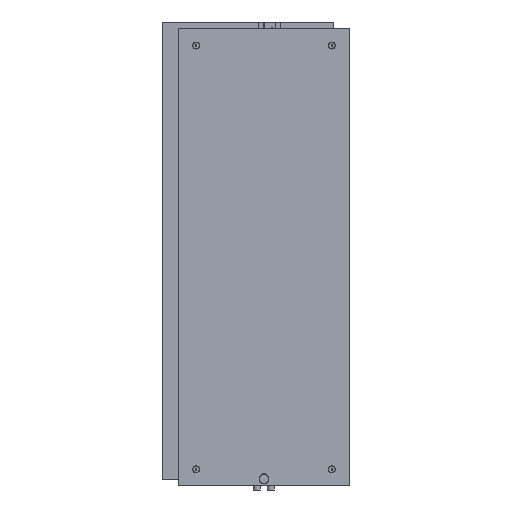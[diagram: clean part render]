
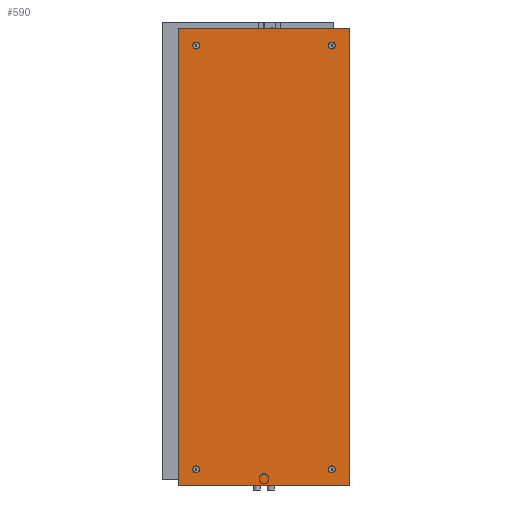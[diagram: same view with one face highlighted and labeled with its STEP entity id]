
A CAD part, front view. The second image highlights one B-rep face of the part: STEP entity #590.
In plain terms, the highlighted planar face has unit normal (0, -1, 0).
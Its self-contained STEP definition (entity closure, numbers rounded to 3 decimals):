
#590 = ADVANCED_FACE( '', ( #1381, #1382, #1383, #1384, #1385 ), #1386, .T. );
#1381 = FACE_BOUND( '', #2927, .T. );
#1382 = FACE_BOUND( '', #2928, .T. );
#1383 = FACE_OUTER_BOUND( '', #2929, .T. );
#1384 = FACE_BOUND( '', #2930, .T. );
#1385 = FACE_BOUND( '', #2931, .T. );
#1386 = PLANE( '', #2932 );
#2927 = EDGE_LOOP( '', ( #4956 ) );
#2928 = EDGE_LOOP( '', ( #4957 ) );
#2929 = EDGE_LOOP( '', ( #4958, #4959, #4960, #4961 ) );
#2930 = EDGE_LOOP( '', ( #4962 ) );
#2931 = EDGE_LOOP( '', ( #4963 ) );
#2932 = AXIS2_PLACEMENT_3D( '', #4964, #4965, #4966 );
#4956 = ORIENTED_EDGE( '', *, *, #6990, .T. );
#4957 = ORIENTED_EDGE( '', *, *, #6991, .T. );
#4958 = ORIENTED_EDGE( '', *, *, #6736, .T. );
#4959 = ORIENTED_EDGE( '', *, *, #6992, .T. );
#4960 = ORIENTED_EDGE( '', *, *, #6987, .T. );
#4961 = ORIENTED_EDGE( '', *, *, #6676, .T. );
#4962 = ORIENTED_EDGE( '', *, *, #6993, .T. );
#4963 = ORIENTED_EDGE( '', *, *, #6585, .T. );
#4964 = CARTESIAN_POINT( '', ( -367.18, 0., 0. ) );
#4965 = DIRECTION( '', ( 0., -1., 0. ) );
#4966 = DIRECTION( '', ( 0., 0., -1. ) );
#6585 = EDGE_CURVE( '', #7284, #7284, #7285, .T. );
#6676 = EDGE_CURVE( '', #7447, #7448, #7449, .T. );
#6736 = EDGE_CURVE( '', #7448, #7553, #7554, .T. );
#6987 = EDGE_CURVE( '', #7954, #7447, #7955, .T. );
#6990 = EDGE_CURVE( '', #7958, #7958, #7959, .T. );
#6991 = EDGE_CURVE( '', #7960, #7960, #7961, .T. );
#6992 = EDGE_CURVE( '', #7553, #7954, #7962, .T. );
#6993 = EDGE_CURVE( '', #7963, #7963, #7964, .T. );
#7284 = VERTEX_POINT( '', #8358 );
#7285 = CIRCLE( '', #8359, 5. );
#7447 = VERTEX_POINT( '', #9504 );
#7448 = VERTEX_POINT( '', #9505 );
#7449 = LINE( '', #9506, #9507 );
#7553 = VERTEX_POINT( '', #11176 );
#7554 = LINE( '', #11177, #11178 );
#7954 = VERTEX_POINT( '', #14553 );
#7955 = LINE( '', #14554, #14555 );
#7958 = VERTEX_POINT( '', #14559 );
#7959 = CIRCLE( '', #14560, 5. );
#7960 = VERTEX_POINT( '', #14561 );
#7961 = CIRCLE( '', #14562, 5. );
#7962 = LINE( '', #14563, #14564 );
#7963 = VERTEX_POINT( '', #14565 );
#7964 = CIRCLE( '', #14566, 5. );
#8358 = CARTESIAN_POINT( '', ( -302.18, 0., 65. ) );
#8359 = AXIS2_PLACEMENT_3D( '', #15741, #15742, #15743 );
#9504 = CARTESIAN_POINT( '', ( 252.82, 0., 1650. ) );
#9505 = CARTESIAN_POINT( '', ( -367.18, 0., 1650. ) );
#9506 = CARTESIAN_POINT( '', ( 252.82, 0., 1650. ) );
#9507 = VECTOR( '', #15846, 1000. );
#11176 = CARTESIAN_POINT( '', ( -367.18, 0., 0. ) );
#11177 = CARTESIAN_POINT( '', ( -367.18, 0., 1650. ) );
#11178 = VECTOR( '', #15896, 1000. );
#14553 = CARTESIAN_POINT( '', ( 252.82, 0., 0. ) );
#14554 = CARTESIAN_POINT( '', ( 252.82, 0., 0. ) );
#14555 = VECTOR( '', #16133, 1000. );
#14559 = CARTESIAN_POINT( '', ( 187.82, 0., 65. ) );
#14560 = AXIS2_PLACEMENT_3D( '', #16135, #16136, #16137 );
#14561 = CARTESIAN_POINT( '', ( -302.18, 0., 1595. ) );
#14562 = AXIS2_PLACEMENT_3D( '', #16138, #16139, #16140 );
#14563 = CARTESIAN_POINT( '', ( -367.18, 0., 0. ) );
#14564 = VECTOR( '', #16141, 1000. );
#14565 = CARTESIAN_POINT( '', ( 187.82, 0., 1595. ) );
#14566 = AXIS2_PLACEMENT_3D( '', #16142, #16143, #16144 );
#15741 = CARTESIAN_POINT( '', ( -302.18, 0., 60. ) );
#15742 = DIRECTION( '', ( 0., 1., 0. ) );
#15743 = DIRECTION( '', ( 0., 0., 1. ) );
#15846 = DIRECTION( '', ( -1., 0., 0. ) );
#15896 = DIRECTION( '', ( 0., 0., -1. ) );
#16133 = DIRECTION( '', ( 0., 0., 1. ) );
#16135 = CARTESIAN_POINT( '', ( 187.82, 0., 60. ) );
#16136 = DIRECTION( '', ( 0., 1., 0. ) );
#16137 = DIRECTION( '', ( 0., 0., 1. ) );
#16138 = CARTESIAN_POINT( '', ( -302.18, 0., 1590. ) );
#16139 = DIRECTION( '', ( 0., 1., 0. ) );
#16140 = DIRECTION( '', ( 0., 0., 1. ) );
#16141 = DIRECTION( '', ( 1., 0., 0. ) );
#16142 = CARTESIAN_POINT( '', ( 187.82, 0., 1590. ) );
#16143 = DIRECTION( '', ( 0., 1., 0. ) );
#16144 = DIRECTION( '', ( 0., 0., 1. ) );
